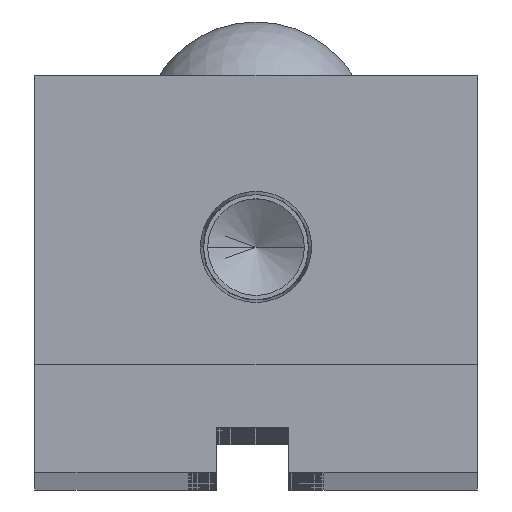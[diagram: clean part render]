
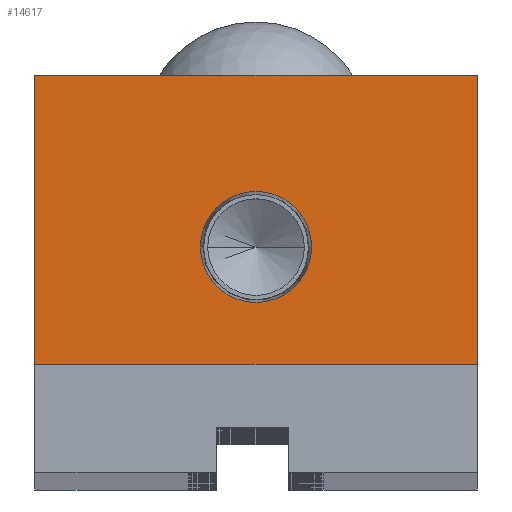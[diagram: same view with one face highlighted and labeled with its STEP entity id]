
A CAD part, top view. The second image highlights one B-rep face of the part: STEP entity #14617.
In plain terms, the highlighted planar face has unit normal (0, 0, 1).
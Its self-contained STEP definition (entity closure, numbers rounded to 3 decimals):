
#190 = ORIENTED_EDGE ( 'NONE', *, *, #5477, .T. ) ;
#1895 = VERTEX_POINT ( 'NONE', #3097 ) ;
#3097 = CARTESIAN_POINT ( 'NONE',  ( 24.5, 0., 0. ) ) ;
#3759 = ORIENTED_EDGE ( 'NONE', *, *, #16677, .F. ) ;
#4961 = EDGE_CURVE ( 'NONE', #5056, #6992, #9231, .T. ) ;
#5056 = VERTEX_POINT ( 'NONE', #24355 ) ;
#5373 = VERTEX_POINT ( 'NONE', #21951 ) ;
#5477 = EDGE_CURVE ( 'NONE', #1895, #10479, #14363, .T. ) ;
#6079 = DIRECTION ( 'NONE',  ( 1., 0., 0. ) ) ;
#6377 = CARTESIAN_POINT ( 'NONE',  ( -24.5, 32., 0. ) ) ;
#6633 = CARTESIAN_POINT ( 'NONE',  ( 24.5, 32., 0. ) ) ;
#6718 = ORIENTED_EDGE ( 'NONE', *, *, #4961, .F. ) ;
#6967 = CARTESIAN_POINT ( 'NONE',  ( -24.5, 0., 0. ) ) ;
#6992 = VERTEX_POINT ( 'NONE', #8231 ) ;
#7072 = DIRECTION ( 'NONE',  ( 0., 0., 1. ) ) ;
#7266 = PLANE ( 'NONE',  #10236 ) ;
#7417 = AXIS2_PLACEMENT_3D ( 'NONE', #22136, #10451, #24113 ) ;
#7625 = LINE ( 'NONE', #6377, #17970 ) ;
#8029 = CARTESIAN_POINT ( 'NONE',  ( 24.5, 0., 0. ) ) ;
#8231 = CARTESIAN_POINT ( 'NONE',  ( -6.154, 13., 0. ) ) ;
#8472 = DIRECTION ( 'NONE',  ( 0., 1., 0. ) ) ;
#9223 = DIRECTION ( 'NONE',  ( 0., 0., -1. ) ) ;
#9231 = CIRCLE ( 'NONE', #7417, 6.154 ) ;
#10236 = AXIS2_PLACEMENT_3D ( 'NONE', #11078, #9223, #22852 ) ;
#10451 = DIRECTION ( 'NONE',  ( 0., 0., 1. ) ) ;
#10479 = VERTEX_POINT ( 'NONE', #23780 ) ;
#11078 = CARTESIAN_POINT ( 'NONE',  ( 0., 0., 0. ) ) ;
#12072 = EDGE_CURVE ( 'NONE', #5373, #12163, #24820, .T. ) ;
#12163 = VERTEX_POINT ( 'NONE', #20892 ) ;
#12419 = ORIENTED_EDGE ( 'NONE', *, *, #15462, .T. ) ;
#12833 = VECTOR ( 'NONE', #6079, 1000. ) ;
#13715 = EDGE_LOOP ( 'NONE', ( #6718, #3759 ) ) ;
#13741 = VECTOR ( 'NONE', #8472, 1000. ) ;
#14363 = LINE ( 'NONE', #6633, #13741 ) ;
#14617 = ADVANCED_FACE ( 'NONE', ( #24411, #23801 ), #7266, .F. ) ;
#15462 = EDGE_CURVE ( 'NONE', #10479, #5373, #7625, .T. ) ;
#16529 = ORIENTED_EDGE ( 'NONE', *, *, #12072, .T. ) ;
#16677 = EDGE_CURVE ( 'NONE', #6992, #5056, #23411, .T. ) ;
#17970 = VECTOR ( 'NONE', #23934, 1000. ) ;
#17999 = LINE ( 'NONE', #8029, #12833 ) ;
#18725 = CARTESIAN_POINT ( 'NONE',  ( 0., 13., 0. ) ) ;
#19420 = EDGE_CURVE ( 'NONE', #12163, #1895, #17999, .T. ) ;
#20687 = DIRECTION ( 'NONE',  ( 1., 0., 0. ) ) ;
#20892 = CARTESIAN_POINT ( 'NONE',  ( -24.5, 0., 0. ) ) ;
#21951 = CARTESIAN_POINT ( 'NONE',  ( -24.5, 32., 0. ) ) ;
#22136 = CARTESIAN_POINT ( 'NONE',  ( 0., 13., 0. ) ) ;
#22852 = DIRECTION ( 'NONE',  ( -1., 0., 0. ) ) ;
#23411 = CIRCLE ( 'NONE', #24360, 6.154 ) ;
#23595 = ORIENTED_EDGE ( 'NONE', *, *, #19420, .T. ) ;
#23780 = CARTESIAN_POINT ( 'NONE',  ( 24.5, 32., 0. ) ) ;
#23801 = FACE_OUTER_BOUND ( 'NONE', #25046, .T. ) ;
#23934 = DIRECTION ( 'NONE',  ( -1., 0., 0. ) ) ;
#24113 = DIRECTION ( 'NONE',  ( 1., 0., 0. ) ) ;
#24234 = VECTOR ( 'NONE', #24503, 1000. ) ;
#24355 = CARTESIAN_POINT ( 'NONE',  ( 6.154, 13., 0. ) ) ;
#24360 = AXIS2_PLACEMENT_3D ( 'NONE', #18725, #7072, #20687 ) ;
#24411 = FACE_BOUND ( 'NONE', #13715, .T. ) ;
#24503 = DIRECTION ( 'NONE',  ( 0., -1., 0. ) ) ;
#24820 = LINE ( 'NONE', #6967, #24234 ) ;
#25046 = EDGE_LOOP ( 'NONE', ( #16529, #23595, #190, #12419 ) ) ;
